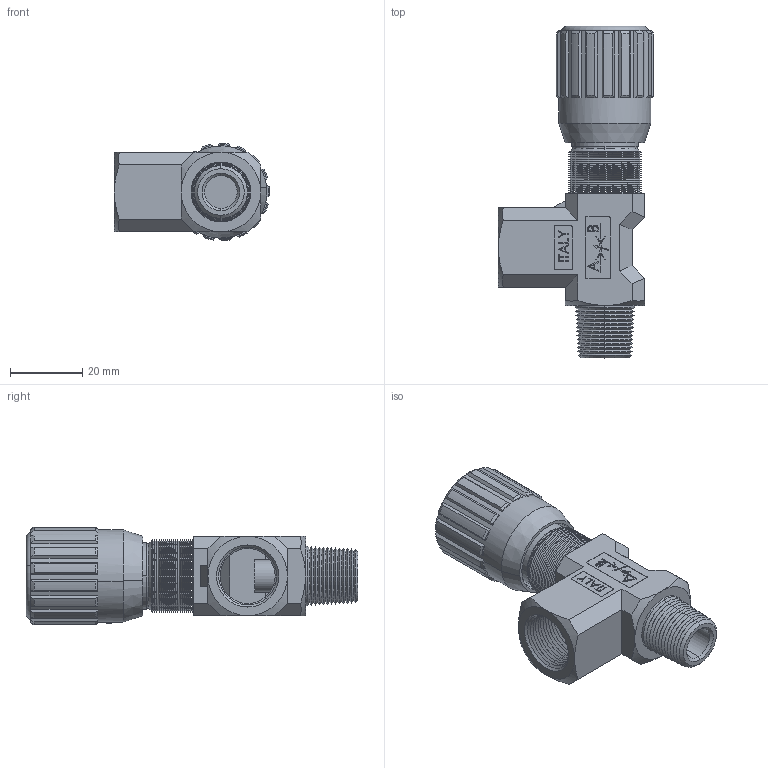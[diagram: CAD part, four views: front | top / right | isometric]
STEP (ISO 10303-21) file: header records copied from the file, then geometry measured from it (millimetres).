
FILE_DESCRIPTION (( 'STEP AP214' ), '1' );
FILE_NAME ('252-2-38 VOLANTINO M-F.STEP', '2015-05-15T15:40:31', ( '' ), ( '' ), 'SwSTEP 2.0', 'SolidWorks 2014', '' );
FILE_SCHEMA (( 'AUTOMOTIVE_DESIGN' ));
Length unit declared in the file: millimetre
Products named in the file (1): 252-2-38 VOLANTINO M-F
Bounding box: 43 x 91.8 x 27 mm (x, y, z)
Surface area: 13792.7 mm2 (no closed solid volume)
Topology: 0 solids, 18 shells, 601 faces, 1885 edges, 1234 vertices
Faces by surface type: plane 269, cone 212, cylinder 64, bspline 54, torus 2
Entity records: 30999 total; most frequent: CARTESIAN_POINT 8266, ORIENTED_EDGE 3215, DIRECTION 3175, EDGE_CURVE 1885, VERTEX_POINT 1234, VECTOR 1181, LINE 1181, AXIS2_PLACEMENT_3D 997
